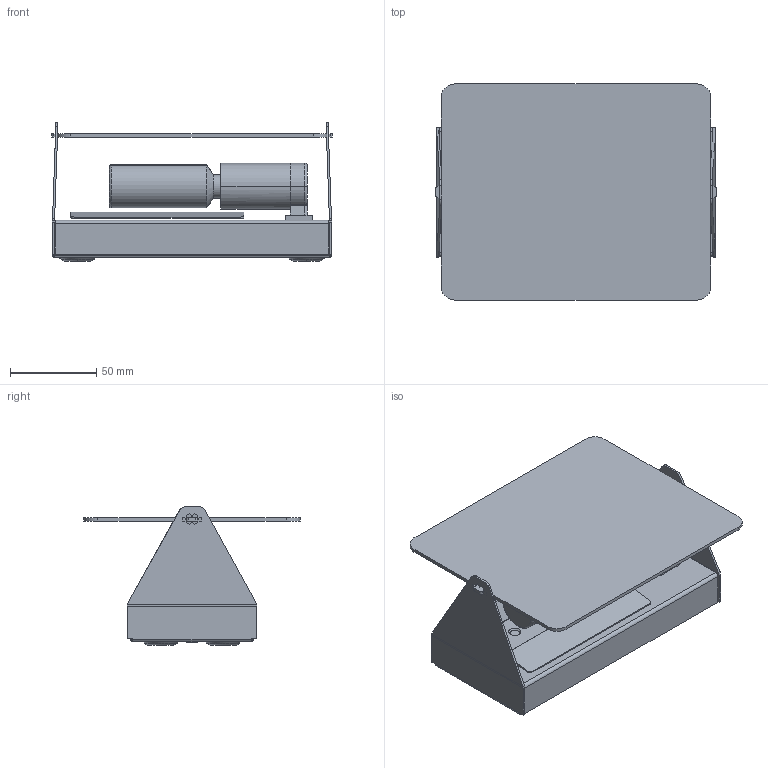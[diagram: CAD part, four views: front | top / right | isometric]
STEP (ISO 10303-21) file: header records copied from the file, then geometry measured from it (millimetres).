
FILE_DESCRIPTION (( 'STEP AP214' ), '1' );
FILE_NAME ('3D_APPLIQUE_A_VOLET_PIVOTANT.STEP', '2018-03-23T09:38:09', ( 'Utente' ), ( '' ), 'SwSTEP 2.0', 'SolidWorks 2016', '' );
FILE_SCHEMA (( 'AUTOMOTIVE_DESIGN' ));
Length unit declared in the file: millimetre
Products named in the file (5): LAMP E14_HALOLUX T ECOMARTI-2^3D_APPLIQUE_A_VOLET_PIVOTANT; 010AVP700311 VOLE SINGLEMARTI-1^3D_APPLIQUE_A_VOLET_PIVOTANT; 010AVP001400 RIFLETTORE UNIVERSALEMARTI-1^3D_APPLIQUE_A_VOLET_PIVOTANT; Group4^3D_APPLIQUE_A_VOLET_PIVOTANT; 3D_APPLIQUE_A_VOLET_PIVOTANT
Assembly tree (4 placements, depth 2):
  3D_APPLIQUE_A_VOLET_PIVOTANT
    Group4^3D_APPLIQUE_A_VOLET_PIVOTANT
    010AVP001400 RIFLETTORE UNIVERSALEMARTI-1^3D_APPLIQUE_A_VOLET_PIVOTANT
    010AVP700311 VOLE SINGLEMARTI-1^3D_APPLIQUE_A_VOLET_PIVOTANT
    LAMP E14_HALOLUX T ECOMARTI-2^3D_APPLIQUE_A_VOLET_PIVOTANT
Bounding box: 162 x 125 x 79.92 mm (x, y, z)
Volume: 139741.8 mm3; surface area: 155355.1 mm2
Topology: 4 solids, 4 shells, 341 faces, 821 edges, 504 vertices
Faces by surface type: plane 155, cylinder 122, cone 30, torus 30, bspline 4
Entity records: 10575 total; most frequent: DIRECTION 1838, CARTESIAN_POINT 1731, ORIENTED_EDGE 1642, EDGE_CURVE 821, AXIS2_PLACEMENT_3D 683, VERTEX_POINT 504, VECTOR 472, LINE 472
